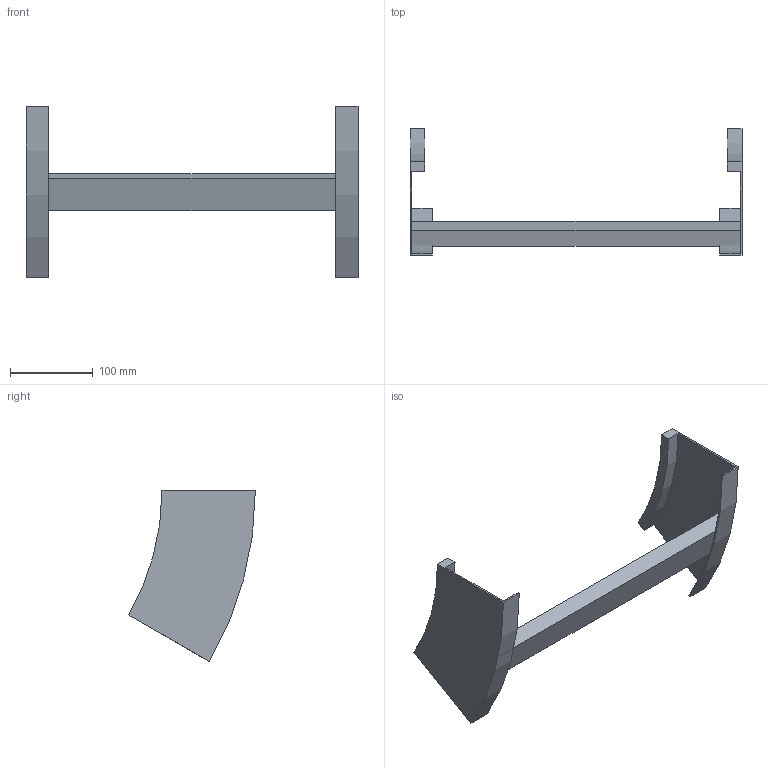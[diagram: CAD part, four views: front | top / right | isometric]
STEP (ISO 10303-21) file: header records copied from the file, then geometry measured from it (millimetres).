
FILE_DESCRIPTION (( 'STEP AP214' ), '1' );
FILE_NAME ('B2X32B3J400XX.step', '2025-03-20T10:00:24', ( '' ), ( '' ), 'SwSTEP 2.0', 'SolidWorks 2023', '' );
FILE_SCHEMA (( 'AUTOMOTIVE_DESIGN' ));
Length unit declared in the file: millimetre
Products named in the file (3): B2_LONGH.SALITA_30°_H112.5_R300; B2X32B3J400XX; TRAVERSINO_400
Assembly tree (3 placements, depth 2):
  B2X32B3J400XX
    B2_LONGH.SALITA_30°_H112.5_R300  x2
    TRAVERSINO_400
Bounding box: 400 x 152.69 x 206.25 mm (x, y, z)
Volume: 487770.5 mm3; surface area: 168635.9 mm2
Topology: 3 solids, 3 shells, 26 faces, 60 edges, 40 vertices
Faces by surface type: plane 18, cylinder 8
Entity records: 544 total; most frequent: DIRECTION 88, CARTESIAN_POINT 82, ORIENTED_EDGE 72, EDGE_CURVE 36, AXIS2_PLACEMENT_3D 30, LINE 28, VECTOR 28, VERTEX_POINT 24
